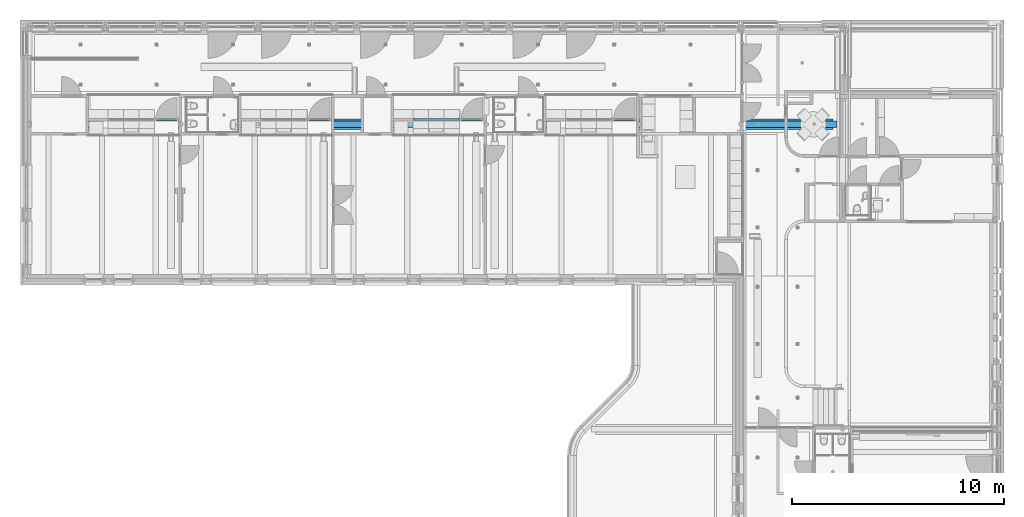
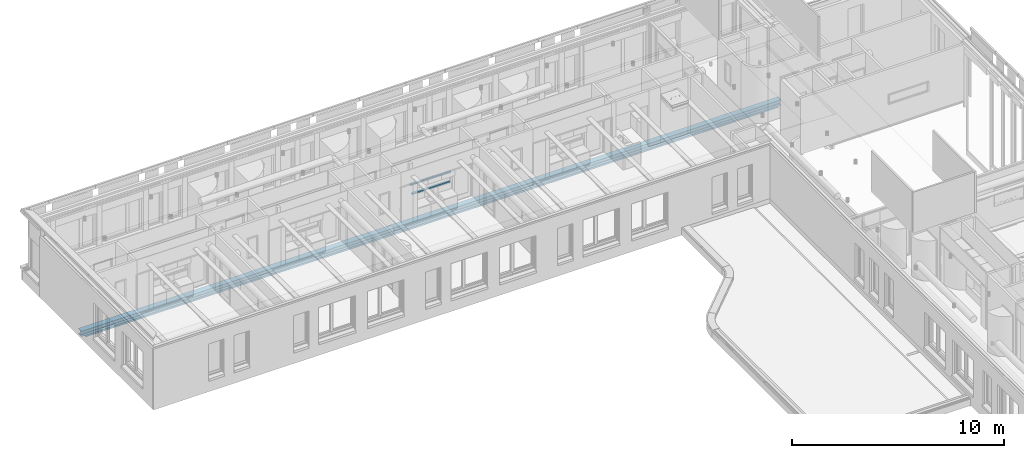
# One storey, part 17 of 128: 2 members, 1 beam, 1 element without a shape of its own.
"""IFC2X3 building model written with IfcOpenShell, lengths in millimetres."""

from ifc_helpers import new_model, entity, si_unit, converted_unit, derived_unit, direction, frame, frame_2d, origin, origin_2d_with_axis, place, context, subcontext, project, spatial, polyline, circle_curve, parameter, trimmed, segment, composite_curve, rectangle, outline, extrude, source, transform, mapped, material, material_list, type_object, type_shapes, element, aggregate, save


model = new_model("IFC2X3")

# Units and contexts
model_context = context("Model", 3, precision=0.01, world=origin(), true_north=direction((6.123031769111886e-17, 1.0)))
body_context = subcontext(model_context, "Body", "Model", "MODEL_VIEW")
ifc_project = project(units=[si_unit("LENGTHUNIT", "METRE", prefix="MILLI"), si_unit("AREAUNIT", "SQUARE_METRE"), si_unit("VOLUMEUNIT", "CUBIC_METRE"), converted_unit("PLANEANGLEUNIT", "DEGREE", entity("IfcRatioMeasure", 0.017453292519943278), si_unit("PLANEANGLEUNIT", "RADIAN"), dimensions=[0, 0, 0, 0, 0, 0, 0]), si_unit("MASSUNIT", "GRAM", prefix="KILO"), derived_unit("MASSDENSITYUNIT", [(si_unit("MASSUNIT", "GRAM", prefix="KILO"), 1), (si_unit("LENGTHUNIT", "METRE"), -3)]), derived_unit("IONCONCENTRATIONUNIT", [(si_unit("MASSUNIT", "GRAM", prefix="KILO"), 1), (si_unit("LENGTHUNIT", "METRE"), -3)]), derived_unit("MOMENTOFINERTIAUNIT", [(si_unit("LENGTHUNIT", "METRE"), 4)]), si_unit("TIMEUNIT", "SECOND"), si_unit("FREQUENCYUNIT", "HERTZ"), si_unit("THERMODYNAMICTEMPERATUREUNIT", "DEGREE_CELSIUS"), derived_unit("THERMALTRANSMITTANCEUNIT", [(si_unit("MASSUNIT", "GRAM", prefix="KILO"), 1), (si_unit("THERMODYNAMICTEMPERATUREUNIT", "KELVIN"), -1), (si_unit("TIMEUNIT", "SECOND"), -3)]), derived_unit("THERMALCONDUCTANCEUNIT", [(si_unit("MASSUNIT", "GRAM", prefix="KILO"), 1), (si_unit("THERMODYNAMICTEMPERATUREUNIT", "KELVIN"), -1), (si_unit("TIMEUNIT", "SECOND"), -3), (si_unit("LENGTHUNIT", "METRE"), 1)]), derived_unit("VOLUMETRICFLOWRATEUNIT", [(si_unit("LENGTHUNIT", "METRE"), 3), (si_unit("TIMEUNIT", "SECOND"), -1)]), derived_unit("MASSFLOWRATEUNIT", [(si_unit("MASSUNIT", "GRAM", prefix="KILO"), 1), (si_unit("TIMEUNIT", "SECOND"), -1)]), derived_unit("ROTATIONALFREQUENCYUNIT", [(si_unit("TIMEUNIT", "SECOND"), -1)]), si_unit("ELECTRICCURRENTUNIT", "AMPERE"), si_unit("ELECTRICVOLTAGEUNIT", "VOLT"), si_unit("POWERUNIT", "WATT"), si_unit("FORCEUNIT", "NEWTON", prefix="KILO"), si_unit("ILLUMINANCEUNIT", "LUX"), si_unit("LUMINOUSFLUXUNIT", "LUMEN"), si_unit("LUMINOUSINTENSITYUNIT", "CANDELA"), derived_unit("USERDEFINED", [(si_unit("MASSUNIT", "GRAM", prefix="KILO"), -1), (si_unit("LENGTHUNIT", "METRE"), -2), (si_unit("TIMEUNIT", "SECOND"), 3), (si_unit("LUMINOUSFLUXUNIT", "LUMEN"), 1)]), derived_unit("USERDEFINED", [(si_unit("MASSUNIT", "GRAM", prefix="KILO"), 1), (si_unit("TIMEUNIT", "SECOND"), -3), (si_unit("LENGTHUNIT", "METRE"), 3), (si_unit("ELECTRICCURRENTUNIT", "AMPERE"), -2)]), derived_unit("SOUNDPOWERUNIT", [(si_unit("MASSUNIT", "GRAM", prefix="KILO"), 1), (si_unit("TIMEUNIT", "SECOND"), -3), (si_unit("LENGTHUNIT", "METRE"), 2)]), derived_unit("SOUNDPRESSUREUNIT", [(si_unit("MASSUNIT", "GRAM", prefix="KILO"), 1), (si_unit("LENGTHUNIT", "METRE"), -1), (si_unit("TIMEUNIT", "SECOND"), -2)]), derived_unit("LINEARVELOCITYUNIT", [(si_unit("LENGTHUNIT", "METRE"), 1), (si_unit("TIMEUNIT", "SECOND"), -1)]), si_unit("PRESSUREUNIT", "PASCAL"), derived_unit("USERDEFINED", [(si_unit("MASSUNIT", "GRAM", prefix="KILO"), 1), (si_unit("LENGTHUNIT", "METRE"), -2), (si_unit("TIMEUNIT", "SECOND"), -2)]), derived_unit("LINEARFORCEUNIT", [(si_unit("MASSUNIT", "GRAM", prefix="KILO"), 1), (si_unit("TIMEUNIT", "SECOND"), -2)]), derived_unit("PLANARFORCEUNIT", [(si_unit("MASSUNIT", "GRAM", prefix="KILO"), 1), (si_unit("LENGTHUNIT", "METRE"), -1), (si_unit("TIMEUNIT", "SECOND"), -2)]), derived_unit("SPECIFICHEATCAPACITYUNIT", [(si_unit("THERMODYNAMICTEMPERATUREUNIT", "KELVIN"), -1), (si_unit("LENGTHUNIT", "METRE"), 2), (si_unit("TIMEUNIT", "SECOND"), -2)]), derived_unit("HEATINGVALUEUNIT", [(si_unit("LENGTHUNIT", "METRE"), 2), (si_unit("TIMEUNIT", "SECOND"), -2)]), derived_unit("VAPORPERMEABILITYUNIT", [(si_unit("LENGTHUNIT", "METRE"), -1), (si_unit("TIMEUNIT", "SECOND"), 1)]), derived_unit("DYNAMICVISCOSITYUNIT", [(si_unit("MASSUNIT", "GRAM", prefix="KILO"), 1), (si_unit("TIMEUNIT", "SECOND"), -1), (si_unit("LENGTHUNIT", "METRE"), -1)]), derived_unit("THERMALEXPANSIONCOEFFICIENTUNIT", [(si_unit("THERMODYNAMICTEMPERATUREUNIT", "KELVIN"), -1)]), derived_unit("MODULUSOFELASTICITYUNIT", [(si_unit("MASSUNIT", "GRAM", prefix="KILO"), 1), (si_unit("LENGTHUNIT", "METRE"), -1), (si_unit("TIMEUNIT", "SECOND"), -2)]), derived_unit("ISOTHERMALMOISTURECAPACITYUNIT", [(si_unit("LENGTHUNIT", "METRE"), 3), (si_unit("MASSUNIT", "GRAM", prefix="KILO"), -1)]), derived_unit("MOISTUREDIFFUSIVITYUNIT", [(si_unit("TIMEUNIT", "SECOND"), -1), (si_unit("LENGTHUNIT", "METRE"), 2)])], contexts=[model_context])

# Site, building, storey
site_placement = place(None, frame((0.0, 300.0, 0.0)))
site = spatial("IfcSite", under=ifc_project, at=site_placement, Name="<Kadastrale nummers>", CompositionType="ELEMENT")
building_placement = place(site_placement, origin())
building = spatial("IfcBuilding", under=site, at=building_placement, CompositionType="ELEMENT")
storey_placement = place(building_placement, frame((0.0, 0.0, 3560.0000331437)))
storey = spatial("IfcBuildingStorey", under=building, at=storey_placement, Name="01 eerste verdieping", CompositionType="ELEMENT", Elevation=3560.0000331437)

# Beam
ifc_material_1 = material(Name="ISR_Staal")
ifc_material_2 = material(Name="<Unnamed>")
ifc_material_list = material_list([ifc_material_2, ifc_material_1])
beam_type = type_object("IfcBeamType", Name="NLRS_28_SF_LIB_balk SFB_gen_ASN:balk HEA320 500x15", PredefinedType="T_BEAM", material=ifc_material_list)
shared_shape_1 = source(origin(), body_context, "Body", "SweptSolid", [
    extrude(rectangle(XDim=15.00000000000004, YDim=499.99999999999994, at=origin_2d_with_axis()), frame((-19030.0, 0.0, -113.50000000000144), z_axis=(1.0, 0.0, 0.0), x_axis=(0.0, 0.0, -1.0)), (0.0, 0.0, 1.0), 37787.299999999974),
    extrude(outline(composite_curve([segment(polyline([(139.49999999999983, -150.0), (155.0, -150.0)]), True, "CONTINUOUS"), segment(polyline([(155.0, -150.0), (155.0, 150.0)]), True, "CONTINUOUS"), segment(polyline([(155.0, 150.0), (139.49999999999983, 150.0)]), True, "CONTINUOUS"), segment(polyline([(139.49999999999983, 150.0), (139.49999999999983, 31.499999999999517)]), True, "CONTINUOUS"), segment(trimmed(circle_curve(frame_2d((112.49999999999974, 31.499999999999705), x_axis=(1.0, 0.0)), 27.00000000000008), [parameter(270.0000000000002)], [parameter(0.0)], True, "PARAMETER"), False, "CONTINUOUS"), segment(polyline([(112.49999999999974, 4.499999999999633), (-112.5, 4.499999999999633)]), True, "CONTINUOUS"), segment(trimmed(circle_curve(frame_2d((-112.49999999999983, 31.49999999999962), x_axis=(0.0, -1.0)), 26.999999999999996), [parameter(269.9999999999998)], [parameter(0.0)], True, "PARAMETER"), False, "CONTINUOUS"), segment(polyline([(-139.49999999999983, 31.499999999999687), (-139.49999999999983, 150.0)]), True, "CONTINUOUS"), segment(polyline([(-139.49999999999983, 150.0), (-155.0, 150.0)]), True, "CONTINUOUS"), segment(polyline([(-155.0, 150.0), (-155.0, -150.0)]), True, "CONTINUOUS"), segment(polyline([(-155.0, -150.0), (-139.49999999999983, -150.0)]), True, "CONTINUOUS"), segment(polyline([(-139.49999999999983, -150.0), (-139.49999999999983, -31.500000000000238)]), True, "CONTINUOUS"), segment(trimmed(circle_curve(frame_2d((-112.49999999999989, -31.500000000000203), x_axis=(-1.0, 0.0)), 26.99999999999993), [parameter(269.9999999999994)], [parameter(0.0)], True, "PARAMETER"), False, "CONTINUOUS"), segment(polyline([(-112.49999999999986, -4.500000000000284), (112.49999999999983, -4.500000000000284)]), True, "CONTINUOUS"), segment(trimmed(circle_curve(frame_2d((112.49999999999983, -31.500000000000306), x_axis=(0.0, 1.0)), 27.00000000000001), [parameter(269.99999999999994)], [parameter(0.0)], True, "PARAMETER"), False, "CONTINUOUS"), segment(polyline([(139.49999999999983, -31.500000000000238), (139.49999999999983, -150.0)]), True, "CONTINUOUS")], self_intersect=False)), frame((-19205.0, 0.0, 49.0), z_axis=(1.0, 0.0, 0.0), x_axis=(0.0, 0.0, -1.0)), (0.0, 0.0, 1.0), 38137.29999999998),
])
type_shapes(beam_type, [shared_shape_1])
beam_placement = place(storey_placement, frame((22205.0, 45300.0, -214.0)))
element("IfcBeam", 1, at=beam_placement, inside=storey, type_object=beam_type, material=ifc_material_1, Name="NLRS_28_SF_LIB_balk SFB_gen_ASN:balk HEA320 500x15", ObjectType="NLRS_28_SF_LIB_balk SFB_gen_ASN:balk HEA320 500x15", context=body_context, shape_type="MappedRepresentation", body=[
    mapped(shared_shape_1, transform((0.0, 0.0, 0.0), scale=1.0)),
])

# Curtain wall, members
curtain_wall_type = type_object("IfcCurtainWallType", Name="Curtain Wall:Merk H13", PredefinedType="NOTDEFINED")
curtain_wall_placement = place(storey_placement, frame((0.0, 0.0, -3560.0000331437)))
curtain_wall = element("IfcCurtainWall", 2, at=curtain_wall_placement, inside=storey, type_object=curtain_wall_type, Name="Curtain Wall:Merk H13", ObjectType="Curtain Wall:Merk H13")
ifc_material_3 = material(Name="ISR_HPL")
member_type_1 = type_object("IfcMemberType", Name="Rectangular Mullion:31_CWM_067x114", PredefinedType="MULLION", material=ifc_material_3)
shared_shape_2 = source(origin(), body_context, "Body", "SweptSolid", [
    extrude(rectangle(XDim=113.9999999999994, YDim=67.0, at=frame_2d((1.0658141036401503e-14, 0.0), x_axis=(1.0, 0.0))), frame((-33.5, -57.0, -2205.0), z_axis=(0.0, 0.0, 1.0), x_axis=(0.0, -1.0, 0.0)), (0.0, 0.0, 1.0), 2205.0000000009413),
])
type_shapes(member_type_1, [shared_shape_2])
member_1_placement = place(curtain_wall_placement, frame((23336.0, 45476.0, 5450.0000331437), z_axis=(1.0, 0.0, 0.0), x_axis=(0.0, 0.0, 1.0)))
member_1 = element("IfcMember", 3, at=member_1_placement, type_object=member_type_1, material=ifc_material_3, Name="Rectangular Mullion:31_CWM_067x114", ObjectType="Rectangular Mullion:31_CWM_067x114", context=body_context, shape_type="MappedRepresentation", body=[
    mapped(shared_shape_2, transform((0.0, 0.0, 0.0), scale=1.0)),
])
member_type_2 = type_object("IfcMemberType", Name="Rectangular Mullion:31_CWM_067x114", PredefinedType="MULLION", material=ifc_material_3)
shared_shape_3 = source(origin(), body_context, "Body", "SweptSolid", [
    extrude(rectangle(XDim=113.9999999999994, YDim=67.0, at=frame_2d((1.0658141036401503e-14, 0.0), x_axis=(1.0, 0.0))), frame((-33.5, -57.0, -2071.0), z_axis=(0.0, 0.0, 1.0), x_axis=(0.0, -1.0, 0.0)), (0.0, 0.0, 1.0), 2071.000000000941),
])
type_shapes(member_type_2, [shared_shape_3])
member_2_placement = place(curtain_wall_placement, frame((21198.0, 45476.0, 4850.0000331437), z_axis=(-1.0, 0.0, 0.0), x_axis=(0.0, 0.0, -1.0)))
member_2 = element("IfcMember", 4, at=member_2_placement, type_object=member_type_2, material=ifc_material_3, Name="Rectangular Mullion:31_CWM_067x114", ObjectType="Rectangular Mullion:31_CWM_067x114", context=body_context, shape_type="MappedRepresentation", body=[
    mapped(shared_shape_3, transform((0.0, 0.0, 0.0), scale=1.0)),
])
aggregate(curtain_wall, [member_1, member_2])

save(model, "model.ifc")
